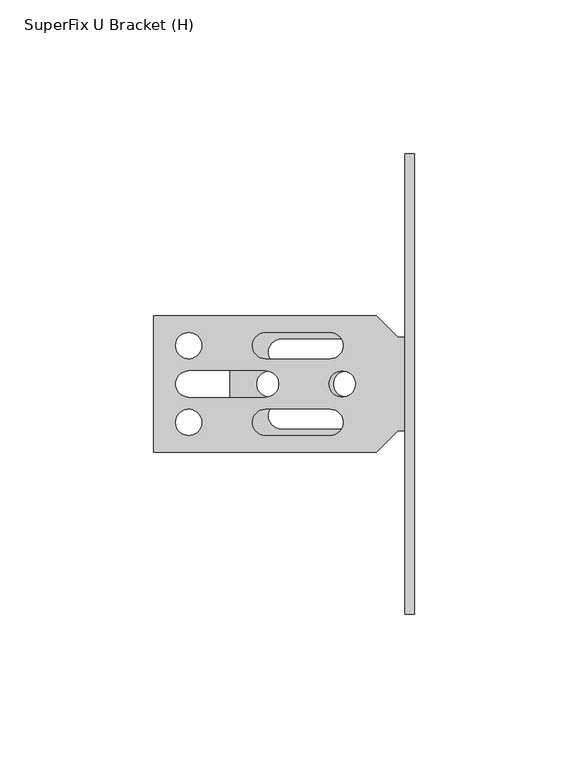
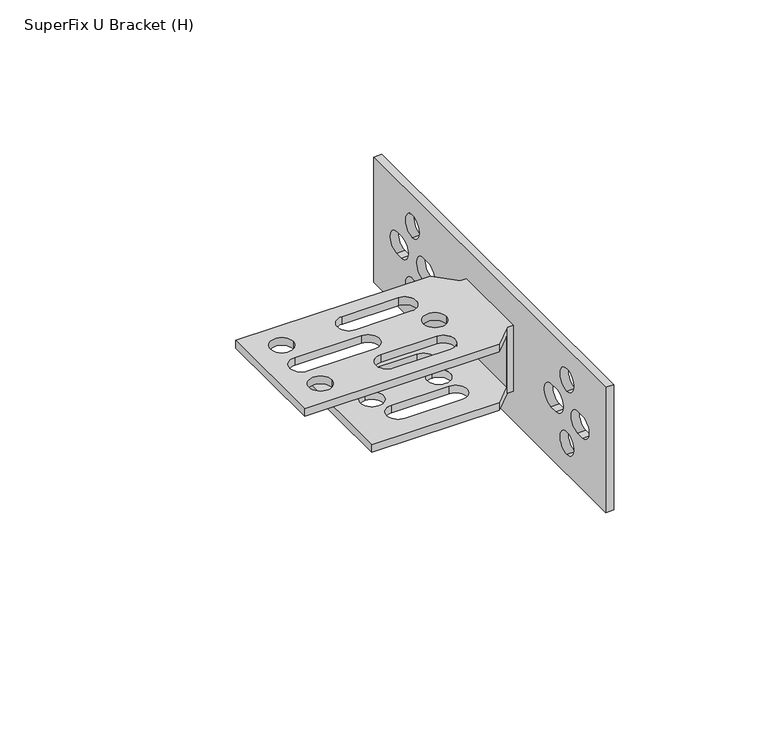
"""IFC4 building model written with IfcOpenShell, lengths in millimetres: valve geometry, SuperFix U Bracket (H) : Superfix U Bracket (H)."""

from ifc_helpers import new_model, si_unit, point, frame, frame_2d, origin, place, context, project, spatial, polyline, circle_curve, trimmed, segment, composite_curve, outline, extrude, source, transform, mapped, element, save
from ifc_brep_helpers import plane_surface, revolved_surface, advanced_brep


def superfix_u_bracket_h_0b8578fe(model_context):
    return source(origin(), model_context, "Body", "SolidModel", [
        advanced_brep(
        [(-60.0, 22.25, 3.0), (-12.3561243, 22.25, 3.0), (-12.3561243, 22.25, 0.0), (-60.0, 22.25, 0.0), (-85.0, 22.25, 26.0), (-12.3561243, 22.25, 26.0), (-12.3561243, 22.25, 23.0), (-85.0, 22.25, 23.0), (-85.0, -22.25, 23.0), (-12.3561243, -22.25, 23.0), (-12.3561243, -22.25, 26.0), (-85.0, -22.25, 26.0), (-60.0, -22.25, 0.0), (-12.3561243, -22.25, 0.0), (-12.3561243, -22.25, 3.0), (-60.0, -22.25, 3.0), (-6.0, 15.8938757, 23.0), (-6.0, -15.8938757, 23.0), (-27.75, 0.0, 23.0), (-19.25, 0.0, 23.0), (-77.75, -12.5, 23.0), (-69.25, -12.5, 23.0), (-77.75, 12.5, 23.0), (-69.25, 12.5, 23.0), (-48.5, 16.75, 23.0), (-48.5, 8.25, 23.0), (-27.5, 8.25, 23.0), (-27.5, 16.75, 23.0), (-48.5, -16.75, 23.0), (-27.5, -16.75, 23.0), (-27.5, -8.25, 23.0), (-48.5, -8.25, 23.0), (-73.5, -4.25, 23.0), (-48.5, -4.25, 23.0), (-48.5, 4.25, 23.0), (-73.5, 4.25, 23.0), (-5.2850565, -15.1789322, 26.0), (-3.0, -15.1789322, 26.0), (-3.0, 15.1789322, 26.0), (-5.2850565, 15.1789322, 26.0), (-19.25, 0.0, 26.0), (-27.75, 0.0, 26.0), (-69.25, -12.5, 26.0), (-77.75, -12.5, 26.0), (-69.25, 12.5, 26.0), (-77.75, 12.5, 26.0), (-27.5, 16.75, 26.0), (-27.5, 8.25, 26.0), (-48.5, 8.25, 26.0), (-48.5, 16.75, 26.0), (-48.5, -8.25, 26.0), (-27.5, -8.25, 26.0), (-27.5, -16.75, 26.0), (-48.5, -16.75, 26.0), (-73.5, 4.25, 26.0), (-48.5, 4.25, 26.0), (-48.5, -4.25, 26.0), (-73.5, -4.25, 26.0), (-3.0, -15.1789322, 0.0), (-3.0, 15.1789322, 0.0), (-5.2850565, 15.1789322, 0.0), (-5.2850565, -15.1789322, 0.0), (-22.0104715, 4.25, 0.0), (-22.0104715, -4.25, 0.0), (-47.0104715, 4.25, 0.0), (-47.0104715, -4.25, 0.0), (-43.2294559, 14.638255, 0.0), (-43.2294559, 6.138255, 0.0), (-21.7472586, 6.138255, 0.0), (-21.7472586, 14.638255, 0.0), (-21.7472586, -6.138255, 0.0), (-43.2294559, -6.138255, 0.0), (-43.2294559, -14.638255, 0.0), (-21.7472586, -14.638255, 0.0), (-6.0, -15.8938757, 3.0), (-6.0, 15.8938757, 3.0), (-22.0104715, -4.25, 3.0), (-22.0104715, 4.25, 3.0), (-47.0104715, -4.25, 3.0), (-47.0104715, 4.25, 3.0), (-21.7472586, 14.638255, 3.0), (-21.7472586, 6.138255, 3.0), (-43.2294559, 6.138255, 3.0), (-43.2294559, 14.638255, 3.0), (-21.7472586, -14.638255, 3.0), (-43.2294559, -14.638255, 3.0), (-43.2294559, -6.138255, 3.0), (-21.7472586, -6.138255, 3.0)],
        [
            (0, 1),
            (1, 2),
            (2, 3),
            (3, 0),
            (4, 5),
            (5, 6),
            (6, 7),
            (7, 4),
            (8, 9),
            (9, 10),
            (10, 11),
            (11, 8),
            (12, 13),
            (13, 14),
            (14, 15),
            (15, 12),
            (6, 16),
            (16, 17),
            (17, 9),
            (8, 7),
            (18, 19, circle_curve(frame((-23.5, 0.0, 23.0), z_axis=(0.0, 0.0, 1.0), x_axis=(1.0, 0.0, 0.0)), 4.25)),
            (19, 18, circle_curve(frame((-23.5, 0.0, 23.0), z_axis=(0.0, 0.0, 1.0), x_axis=(1.0, 0.0, 0.0)), 4.25)),
            (20, 21, circle_curve(frame((-73.5, -12.5, 23.0), z_axis=(0.0, 0.0, 1.0), x_axis=(1.0, 0.0, 0.0)), 4.25)),
            (21, 20, circle_curve(frame((-73.5, -12.5, 23.0), z_axis=(0.0, 0.0, 1.0), x_axis=(1.0, 0.0, 0.0)), 4.25)),
            (22, 23, circle_curve(frame((-73.5, 12.5, 23.0), z_axis=(0.0, 0.0, 1.0), x_axis=(1.0, 0.0, 0.0)), 4.25)),
            (23, 22, circle_curve(frame((-73.5, 12.5, 23.0), z_axis=(0.0, 0.0, 1.0), x_axis=(1.0, 0.0, 0.0)), 4.25)),
            (24, 25, circle_curve(frame((-48.5, 12.5, 23.0), z_axis=(0.0, 0.0, 1.0), x_axis=(1.0, 0.0, 0.0)), 4.25)),
            (25, 26),
            (26, 27, circle_curve(frame((-27.5, 12.5, 23.0), z_axis=(0.0, 0.0, 1.0), x_axis=(1.0, 0.0, 0.0)), 4.25)),
            (27, 24),
            (28, 29),
            (29, 30, circle_curve(frame((-27.5, -12.5, 23.0), z_axis=(0.0, 0.0, 1.0), x_axis=(1.0, 0.0, 0.0)), 4.25)),
            (30, 31),
            (31, 28, circle_curve(frame((-48.5, -12.5, 23.0), z_axis=(0.0, 0.0, 1.0), x_axis=(1.0, 0.0, 0.0)), 4.25)),
            (32, 33),
            (33, 34, circle_curve(frame((-48.5, 0.0, 23.0), z_axis=(0.0, 0.0, 1.0), x_axis=(1.0, 0.0, 0.0)), 4.25)),
            (34, 35),
            (35, 32, circle_curve(frame((-73.5, 0.0, 23.0), z_axis=(0.0, 0.0, 1.0), x_axis=(1.0, 0.0, 0.0)), 4.25)),
            (11, 4),
            (10, 36),
            (36, 37),
            (37, 38),
            (38, 39),
            (39, 5),
            (40, 41, circle_curve(frame((-23.5, 0.0, 26.0), z_axis=(0.0, 0.0, -1.0), x_axis=(1.0, 0.0, 0.0)), 4.25)),
            (41, 40, circle_curve(frame((-23.5, 0.0, 26.0), z_axis=(0.0, 0.0, -1.0), x_axis=(1.0, 0.0, 0.0)), 4.25)),
            (42, 43, circle_curve(frame((-73.5, -12.5, 26.0), z_axis=(0.0, 0.0, -1.0), x_axis=(1.0, 0.0, 0.0)), 4.25)),
            (43, 42, circle_curve(frame((-73.5, -12.5, 26.0), z_axis=(0.0, 0.0, -1.0), x_axis=(1.0, 0.0, 0.0)), 4.25)),
            (44, 45, circle_curve(frame((-73.5, 12.5, 26.0), z_axis=(0.0, 0.0, -1.0), x_axis=(1.0, 0.0, 0.0)), 4.25)),
            (45, 44, circle_curve(frame((-73.5, 12.5, 26.0), z_axis=(0.0, 0.0, -1.0), x_axis=(1.0, 0.0, 0.0)), 4.25)),
            (46, 47, circle_curve(frame((-27.5, 12.5, 26.0), z_axis=(0.0, 0.0, -1.0), x_axis=(1.0, 0.0, 0.0)), 4.25)),
            (47, 48),
            (48, 49, circle_curve(frame((-48.5, 12.5, 26.0), z_axis=(0.0, 0.0, -1.0), x_axis=(1.0, 0.0, 0.0)), 4.25)),
            (49, 46),
            (50, 51),
            (51, 52, circle_curve(frame((-27.5, -12.5, 26.0), z_axis=(0.0, 0.0, -1.0), x_axis=(1.0, 0.0, 0.0)), 4.25)),
            (52, 53),
            (53, 50, circle_curve(frame((-48.5, -12.5, 26.0), z_axis=(0.0, 0.0, -1.0), x_axis=(1.0, 0.0, 0.0)), 4.25)),
            (54, 55),
            (55, 56, circle_curve(frame((-48.5, 0.0, 26.0), z_axis=(0.0, 0.0, -1.0), x_axis=(1.0, 0.0, 0.0)), 4.25)),
            (56, 57),
            (57, 54, circle_curve(frame((-73.5, 0.0, 26.0), z_axis=(0.0, 0.0, -1.0), x_axis=(1.0, 0.0, 0.0)), 4.25)),
            (37, 58),
            (58, 59),
            (59, 38),
            (2, 60),
            (60, 59),
            (58, 61),
            (61, 13),
            (12, 3),
            (62, 63, circle_curve(frame((-22.0104715, 0.0, 0.0), z_axis=(0.0, 0.0, 1.0), x_axis=(0.0, 1.0, 0.0)), 4.25)),
            (63, 62, circle_curve(frame((-22.0104715, 0.0, 0.0), z_axis=(0.0, 0.0, 1.0), x_axis=(0.0, 1.0, 0.0)), 4.25)),
            (64, 65, circle_curve(frame((-47.0104715, 0.0, 0.0), z_axis=(0.0, 0.0, 1.0), x_axis=(0.0, 1.0, 0.0)), 4.25)),
            (65, 64, circle_curve(frame((-47.0104715, 0.0, 0.0), z_axis=(0.0, 0.0, 1.0), x_axis=(0.0, 1.0, 0.0)), 4.25)),
            (66, 67, circle_curve(frame((-43.2294559, 10.388255, 0.0), z_axis=(0.0, 0.0, 1.0), x_axis=(0.0, 1.0, 0.0)), 4.25)),
            (67, 68),
            (68, 69, circle_curve(frame((-21.7472586, 10.388255, 0.0), z_axis=(0.0, 0.0, 1.0), x_axis=(0.0, 1.0, 0.0)), 4.25)),
            (69, 66),
            (70, 71),
            (71, 72, circle_curve(frame((-43.2294559, -10.388255, 0.0), z_axis=(0.0, 0.0, 1.0), x_axis=(0.0, 1.0, 0.0)), 4.25)),
            (72, 73),
            (73, 70, circle_curve(frame((-21.7472586, -10.388255, 0.0), z_axis=(0.0, 0.0, 1.0), x_axis=(0.0, 1.0, 0.0)), 4.25)),
            (15, 0),
            (14, 74),
            (74, 75),
            (75, 1),
            (76, 77, circle_curve(frame((-22.0104715, 0.0, 3.0), z_axis=(0.0, 0.0, -1.0), x_axis=(0.0, 1.0, 0.0)), 4.25)),
            (77, 76, circle_curve(frame((-22.0104715, 0.0, 3.0), z_axis=(0.0, 0.0, -1.0), x_axis=(0.0, 1.0, 0.0)), 4.25)),
            (78, 79, circle_curve(frame((-47.0104715, 0.0, 3.0), z_axis=(0.0, 0.0, -1.0), x_axis=(0.0, 1.0, 0.0)), 4.25)),
            (79, 78, circle_curve(frame((-47.0104715, 0.0, 3.0), z_axis=(0.0, 0.0, -1.0), x_axis=(0.0, 1.0, 0.0)), 4.25)),
            (80, 81, circle_curve(frame((-21.7472586, 10.388255, 3.0), z_axis=(0.0, 0.0, -1.0), x_axis=(0.0, 1.0, 0.0)), 4.25)),
            (81, 82),
            (82, 83, circle_curve(frame((-43.2294559, 10.388255, 3.0), z_axis=(0.0, 0.0, -1.0), x_axis=(0.0, 1.0, 0.0)), 4.25)),
            (83, 80),
            (84, 85),
            (85, 86, circle_curve(frame((-43.2294559, -10.388255, 3.0), z_axis=(0.0, 0.0, -1.0), x_axis=(0.0, 1.0, 0.0)), 4.25)),
            (86, 87),
            (87, 84, circle_curve(frame((-21.7472586, -10.388255, 3.0), z_axis=(0.0, 0.0, -1.0), x_axis=(0.0, 1.0, 0.0)), 4.25)),
            (16, 75),
            (74, 17),
            (41, 18),
            (19, 40),
            (43, 20),
            (21, 42),
            (45, 22),
            (23, 44),
            (49, 24),
            (27, 46),
            (26, 47),
            (25, 48),
            (53, 28),
            (31, 50),
            (30, 51),
            (29, 52),
            (57, 32),
            (35, 54),
            (34, 55),
            (33, 56),
            (36, 61),
            (39, 60),
            (63, 76),
            (77, 62),
            (65, 78),
            (79, 64),
            (69, 80),
            (83, 66),
            (82, 67),
            (81, 68),
            (73, 84),
            (87, 70),
            (86, 71),
            (85, 72),
        ],
        [
            plane_surface(frame((-85.0, 22.25, 23.0), z_axis=(0.0, 1.0, 0.0), x_axis=(1.0, 0.0, 0.0))),
            plane_surface(frame((-85.0, -22.25, 23.0), z_axis=(0.0, -1.0, 0.0), x_axis=(-1.0, 0.0, 0.0))),
            plane_surface(frame((-6.0, -22.25, 23.0), z_axis=(0.0, 0.0, -1.0), x_axis=(0.0, 1.0, 0.0))),
            plane_surface(frame((-85.0, -22.25, 23.0), z_axis=(-1.0, 0.0, 0.0), x_axis=(0.0, 1.0, 0.0))),
            plane_surface(frame((-85.0, -22.25, 26.0), z_axis=(0.0, 0.0, 1.0), x_axis=(0.0, 1.0, 0.0))),
            plane_surface(frame((-3.0, -22.25, 26.0), z_axis=(1.0, 0.0, 0.0), x_axis=(0.0, 1.0, 0.0))),
            plane_surface(frame((-3.0, -22.25, 0.0), z_axis=(0.0, 0.0, -1.0), x_axis=(0.0, 1.0, 0.0))),
            plane_surface(frame((-60.0, -22.25, 0.0), z_axis=(-1.0, 0.0, 0.0), x_axis=(0.0, 1.0, 0.0))),
            plane_surface(frame((-60.0, -22.25, 3.0), z_axis=(0.0, 0.0, 1.0), x_axis=(0.0, 1.0, 0.0))),
            plane_surface(frame((-6.0, -22.25, 3.0), z_axis=(-1.0, 0.0, 0.0), x_axis=(0.0, 1.0, 0.0))),
            revolved_surface(polyline([(-19.25, 0.0, 26.0), (-19.25, 0.0, 23.0)]), (-23.5, 0.0, 23.0), (0.0, 0.0, 1.0)),
            revolved_surface(polyline([(-69.25, -12.5, 26.0), (-69.25, -12.5, 23.0)]), (-73.5, -12.5, 0.0), (0.0, 0.0, 1.0)),
            revolved_surface(polyline([(-69.25, 12.5, 26.0), (-69.25, 12.5, 23.0)]), (-73.5, 12.5, 0.0), (0.0, 0.0, 1.0)),
            plane_surface(frame((-48.5, 16.75, 26.0), z_axis=(0.0, -1.0, 0.0), x_axis=(0.0, 0.0, -1.0))),
            revolved_surface(polyline([(-23.25, 12.5, 26.0), (-23.25, 12.5, 23.0)]), (-27.5, 12.5, 0.0), (0.0, 0.0, 1.0)),
            plane_surface(frame((-27.5, 8.25, 26.0), z_axis=(0.0, 1.0, 0.0), x_axis=(0.0, 0.0, -1.0))),
            revolved_surface(polyline([(-44.25, 12.5, 26.0), (-44.25, 12.5, 23.0)]), (-48.5, 12.5, 0.0), (0.0, 0.0, 1.0)),
            revolved_surface(polyline([(-44.25, -12.5, 26.0), (-44.25, -12.5, 23.0)]), (-48.5, -12.5, 0.0), (0.0, 0.0, 1.0)),
            plane_surface(frame((-48.5, -8.25, 26.0), z_axis=(0.0, -1.0, 0.0), x_axis=(0.0, 0.0, -1.0))),
            revolved_surface(polyline([(-23.25, -12.5, 26.0), (-23.25, -12.5, 23.0)]), (-27.5, -12.5, 0.0), (0.0, 0.0, 1.0)),
            plane_surface(frame((-27.5, -16.75, 26.0), z_axis=(0.0, 1.0, 0.0), x_axis=(0.0, 0.0, -1.0))),
            revolved_surface(polyline([(-69.25, 0.0, 26.0), (-69.25, 0.0, 23.0)]), (-73.5, 0.0, 0.0), (0.0, 0.0, 1.0)),
            plane_surface(frame((-73.5, 4.25, 26.0), z_axis=(0.0, -1.0, 0.0), x_axis=(0.0, 0.0, -1.0))),
            revolved_surface(polyline([(-44.25, 0.0, 26.0), (-44.25, 0.0, 23.0)]), (-48.5, 0.0, 0.0), (0.0, 0.0, 1.0)),
            plane_surface(frame((-48.5, -4.25, 26.0), z_axis=(0.0, 1.0, 0.0), x_axis=(0.0, 0.0, -1.0))),
            plane_surface(frame((-5.2850565, -15.1789322, 250.0), z_axis=(0.0, -1.0, 0.0), x_axis=(0.0, 0.0, -1.0))),
            plane_surface(frame((-12.3561243, -22.25, 250.0), z_axis=(0.7071067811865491, -0.707106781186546, 0.0), x_axis=(0.0, 0.0, -1.0))),
            plane_surface(frame((-5.2850565, 15.1789322, 250.0), z_axis=(0.7071067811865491, 0.707106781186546, 0.0), x_axis=(0.0, 0.0, -1.0))),
            plane_surface(frame((-3.0, 15.1789322, 250.0), z_axis=(0.0, 1.0, 0.0), x_axis=(0.0, 0.0, -1.0))),
            revolved_surface(polyline([(-22.0104715, 4.25, 0.0), (-22.0104715, 4.25, 3.0)]), (-22.0104715, 0.0, 3.0), (0.0, 0.0, -1.0)),
            revolved_surface(polyline([(-47.0104715, 4.25, 0.0), (-47.0104715, 4.25, 3.0)]), (-47.0104715, 0.0, 26.0), (0.0, 0.0, -1.0)),
            plane_surface(frame((-21.7472586, 14.638255, 0.0), z_axis=(0.0, -1.0, 0.0), x_axis=(0.0, 0.0, 1.0))),
            revolved_surface(polyline([(-43.2294559, 14.638255, 0.0), (-43.2294559, 14.638255, 3.0)]), (-43.2294559, 10.388255, 26.0), (0.0, 0.0, -1.0)),
            plane_surface(frame((-43.2294559, 6.138255, 0.0), z_axis=(0.0, 1.0, 0.0), x_axis=(0.0, 0.0, 1.0))),
            revolved_surface(polyline([(-21.7472586, 14.638255, 0.0), (-21.7472586, 14.638255, 3.0)]), (-21.7472586, 10.388255, 26.0), (0.0, 0.0, -1.0)),
            revolved_surface(polyline([(-21.7472586, -6.138254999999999, 0.0), (-21.7472586, -6.138254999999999, 3.0)]), (-21.7472586, -10.388255, 26.0), (0.0, 0.0, -1.0)),
            plane_surface(frame((-21.7472586, -6.138255, 0.0), z_axis=(0.0, -1.0, 0.0), x_axis=(0.0, 0.0, 1.0))),
            revolved_surface(polyline([(-43.2294559, -6.138254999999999, 0.0), (-43.2294559, -6.138254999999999, 3.0)]), (-43.2294559, -10.388255, 26.0), (0.0, 0.0, -1.0)),
            plane_surface(frame((-43.2294559, -14.638255, 0.0), z_axis=(0.0, 1.0, 0.0), x_axis=(0.0, 0.0, 1.0))),
        ],
        [
            (0, [[1, 2, 3, 4]]),
            (0, [[5, 6, 7, 8]]),
            (1, [[9, 10, 11, 12]]),
            (1, [[13, 14, 15, 16]]),
            (2, [[-7, 17, 18, 19, -9, 20], [21, 22], [23, 24], [25, 26], [27, 28, 29, 30], [31, 32, 33, 34], [35, 36, 37, 38]]),
            (3, [[-20, -12, 39, -8]]),
            (4, [[-11, 40, 41, 42, 43, 44, -5, -39], [45, 46], [47, 48], [49, 50], [51, 52, 53, 54], [55, 56, 57, 58], [59, 60, 61, 62]]),
            (5, [[63, 64, 65, -42]]),
            (6, [[-3, 66, 67, -64, 68, 69, -13, 70], [71, 72], [73, 74], [75, 76, 77, 78], [79, 80, 81, 82]]),
            (7, [[-70, -16, 83, -4]]),
            (8, [[-15, 84, 85, 86, -1, -83], [87, 88], [89, 90], [91, 92, 93, 94], [95, 96, 97, 98]]),
            (9, [[99, -85, 100, -18]]),
            (10, [[-46, 101, -22, 102]]),
            (10, [[-21, -101, -45, -102]]),
            (11, [[-48, 103, -24, 104]]),
            (11, [[-23, -103, -47, -104]]),
            (12, [[-50, 105, -26, 106]]),
            (12, [[-25, -105, -49, -106]]),
            (13, [[-54, 107, -30, 108]]),
            (14, [[-29, 109, -51, -108]]),
            (15, [[-28, 110, -52, -109]]),
            (16, [[-53, -110, -27, -107]]),
            (17, [[-58, 111, -34, 112]]),
            (18, [[-33, 113, -55, -112]]),
            (19, [[-32, 114, -56, -113]]),
            (20, [[-57, -114, -31, -111]]),
            (21, [[-62, 115, -38, 116]]),
            (22, [[-37, 117, -59, -116]]),
            (23, [[-36, 118, -60, -117]]),
            (24, [[-61, -118, -35, -115]]),
            (25, [[-68, -63, -41, 119]]),
            (26, [[-40, -10, -19, -100, -84, -14, -69, -119]]),
            (27, [[-66, -2, -86, -99, -17, -6, -44, 120]]),
            (28, [[-43, -65, -67, -120]]),
            (29, [[-72, 121, -88, 122]]),
            (29, [[-87, -121, -71, -122]]),
            (30, [[-74, 123, -90, 124]]),
            (30, [[-89, -123, -73, -124]]),
            (31, [[-78, 125, -94, 126]]),
            (32, [[-93, 127, -75, -126]]),
            (33, [[-92, 128, -76, -127]]),
            (34, [[-77, -128, -91, -125]]),
            (35, [[-82, 129, -98, 130]]),
            (36, [[-97, 131, -79, -130]]),
            (37, [[-96, 132, -80, -131]]),
            (38, [[-81, -132, -95, -129]]),
        ],
    ),
        extrude(outline(polyline([(75.0, -11.75), (-75.0, -11.75), (-75.0, 37.75), (75.0, 37.75), (75.0, -11.75)]), holes=[composite_curve([segment(trimmed(circle_curve(frame_2d((-50.0, 0.5)), 4.4), [point((-50.0, -3.9))], [point((-50.0, 4.9))], True, "CARTESIAN"), True, "CONTINUOUS"), segment(trimmed(circle_curve(frame_2d((-50.0, 0.5)), 4.4), [point((-50.0, 4.9))], [point((-50.0, -3.9))], True, "CARTESIAN"), True, "CONTINUOUS")], self_intersect=False), composite_curve([segment(trimmed(circle_curve(frame_2d((50.0, 0.5)), 4.4), [point((50.0, -3.9))], [point((50.0, 4.9))], True, "CARTESIAN"), True, "CONTINUOUS"), segment(trimmed(circle_curve(frame_2d((50.0, 0.5)), 4.4), [point((50.0, 4.9))], [point((50.0, -3.9))], True, "CARTESIAN"), True, "CONTINUOUS")], self_intersect=False), composite_curve([segment(trimmed(circle_curve(frame_2d((50.0, 25.5)), 4.4), [point((50.0, 21.1))], [point((50.0, 29.9))], True, "CARTESIAN"), True, "CONTINUOUS"), segment(trimmed(circle_curve(frame_2d((50.0, 25.5)), 4.4), [point((50.0, 29.9))], [point((50.0, 21.1))], True, "CARTESIAN"), True, "CONTINUOUS")], self_intersect=False), composite_curve([segment(trimmed(circle_curve(frame_2d((-50.0, 25.5)), 4.4), [point((-50.0, 21.1))], [point((-50.0, 29.9))], True, "CARTESIAN"), True, "CONTINUOUS"), segment(trimmed(circle_curve(frame_2d((-50.0, 25.5)), 4.4), [point((-50.0, 29.9))], [point((-50.0, 21.1))], True, "CARTESIAN"), True, "CONTINUOUS")], self_intersect=False), composite_curve([segment(trimmed(circle_curve(frame_2d((-40.0, 13.2744677)), 4.5374009), [point((-39.6938427, 8.7474074))], [point((-39.7030464, 17.802141))], True, "CARTESIAN"), True, "CONTINUOUS"), segment(polyline([(-39.7030464, 17.802141), (-43.0, 17.802141)]), True, "CONTINUOUS"), segment(trimmed(circle_curve(frame_2d((-43.0, 13.2747742)), 4.5273668), [point((-43.0, 17.802141))], [point((-43.0, 8.7474074))], True, "CARTESIAN"), True, "CONTINUOUS"), segment(polyline([(-43.0, 8.7474074), (-39.6938427, 8.7474074)]), True, "CONTINUOUS")], self_intersect=False), composite_curve([segment(polyline([(-60.2969536, 8.7474074), (-57.0, 8.7474074)]), True, "CONTINUOUS"), segment(trimmed(circle_curve(frame_2d((-57.0, 13.0)), 4.2525926), [point((-57.0, 8.7474074))], [point((-57.0, 17.2525926))], True, "CARTESIAN"), True, "CONTINUOUS"), segment(polyline([(-57.0, 17.2525926), (-60.2969536, 17.2525926)]), True, "CONTINUOUS"), segment(trimmed(circle_curve(frame_2d((-60.0, 13.0)), 4.2629479), [point((-60.2969536, 17.2525926))], [point((-60.2969536, 8.7474074))], True, "CARTESIAN"), True, "CONTINUOUS")], self_intersect=False), composite_curve([segment(polyline([(39.7030464, 8.7474074), (43.0, 8.7474074)]), True, "CONTINUOUS"), segment(trimmed(circle_curve(frame_2d((43.0, 13.0)), 4.2525926), [point((43.0, 8.7474074))], [point((43.0, 17.2525926))], True, "CARTESIAN"), True, "CONTINUOUS"), segment(polyline([(43.0, 17.2525926), (39.7030464, 17.2525926)]), True, "CONTINUOUS"), segment(trimmed(circle_curve(frame_2d((40.0, 13.0)), 4.2629479), [point((39.7030464, 17.2525926))], [point((39.7030464, 8.7474074))], True, "CARTESIAN"), True, "CONTINUOUS")], self_intersect=False), composite_curve([segment(trimmed(circle_curve(frame_2d((60.0, 13.0)), 4.2629479), [point((60.2969536, 8.7474074))], [point((60.2969536, 17.2525926))], True, "CARTESIAN"), True, "CONTINUOUS"), segment(polyline([(60.2969536, 17.2525926), (57.0, 17.2525926)]), True, "CONTINUOUS"), segment(trimmed(circle_curve(frame_2d((57.0, 13.0)), 4.2525926), [point((57.0, 17.2525926))], [point((57.0, 8.7474074))], True, "CARTESIAN"), True, "CONTINUOUS"), segment(polyline([(57.0, 8.7474074), (60.2969536, 8.7474074)]), True, "CONTINUOUS")], self_intersect=False)]), frame((-3.0, 0.0, 0.0), z_axis=(1.0, 0.0, 0.0), x_axis=(0.0, 1.0, 0.0)), (0.0, 0.0, 1.0), 3.0),
    ])


if __name__ == "__main__":
    model = new_model("IFC4")
    model_context = context("Model", 3, world=origin())
    ifc_project = project(units=[si_unit("LENGTHUNIT", "METRE", prefix="MILLI")], contexts=[model_context])
    site = spatial("IfcSite", under=ifc_project)
    building = spatial("IfcBuilding", under=site)
    placement = place(None, origin())
    superfix_u_bracket_h_shape = superfix_u_bracket_h_0b8578fe(model_context)
    element("IfcValve", 1, ObjectType="SuperFix U Bracket (H) : Superfix U Bracket (H)", at=placement, inside=building, context=model_context, shape_type="MappedRepresentation", body=[
        mapped(superfix_u_bracket_h_shape, transform((0.0, 0.0, 0.0), x_axis=(1.0, 0.0, 0.0), y_axis=(0.0, 1.0, 0.0), z_axis=(0.0, 0.0, 1.0))),
    ])
    save(model, "model.ifc")
